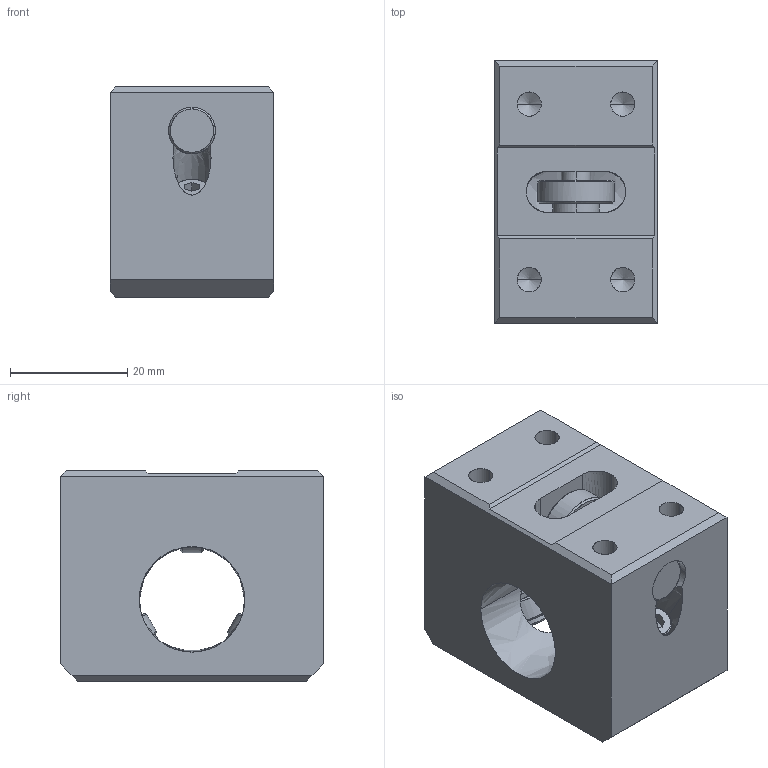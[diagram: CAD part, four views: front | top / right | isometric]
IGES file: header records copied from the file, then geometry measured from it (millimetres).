
Global section: file name: No Iges File Name specified; native system: AutoDesk Inventor R10; preprocessor: AutoDesk Inventor Iges Exporter R10; author: No Author specified; organization: No Organization specified; date: 20101222.161230; units: millimetre
Bounding box: 28 x 45 x 36 mm (x, y, z)
Surface area: 12027.1 mm2 (no closed solid volume)
Topology: 0 solids, 0 shells, 150 faces, 1114 edges, 1098 vertices
Faces by surface type: bspline 150
